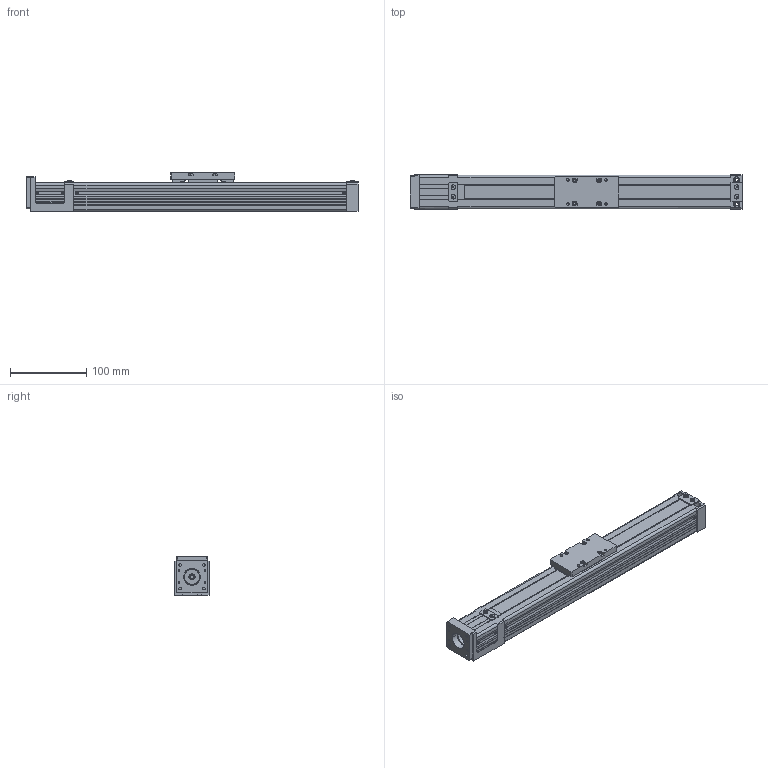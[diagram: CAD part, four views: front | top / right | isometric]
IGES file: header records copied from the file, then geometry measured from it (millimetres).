
Global section: file name: No Iges File Name specified; native system: AutoDesk Inventor R10; preprocessor: AutoDesk Inventor Iges Exporter R10; author: No Author specified; organization: No Organization specified; date: 20110617.144524; units: millimetre
Bounding box: 436 x 45 x 50 mm (x, y, z)
Surface area: 177103.7 mm2 (no closed solid volume)
Topology: 0 solids, 0 shells, 801 faces, 5296 edges, 5276 vertices
Faces by surface type: bspline 801
